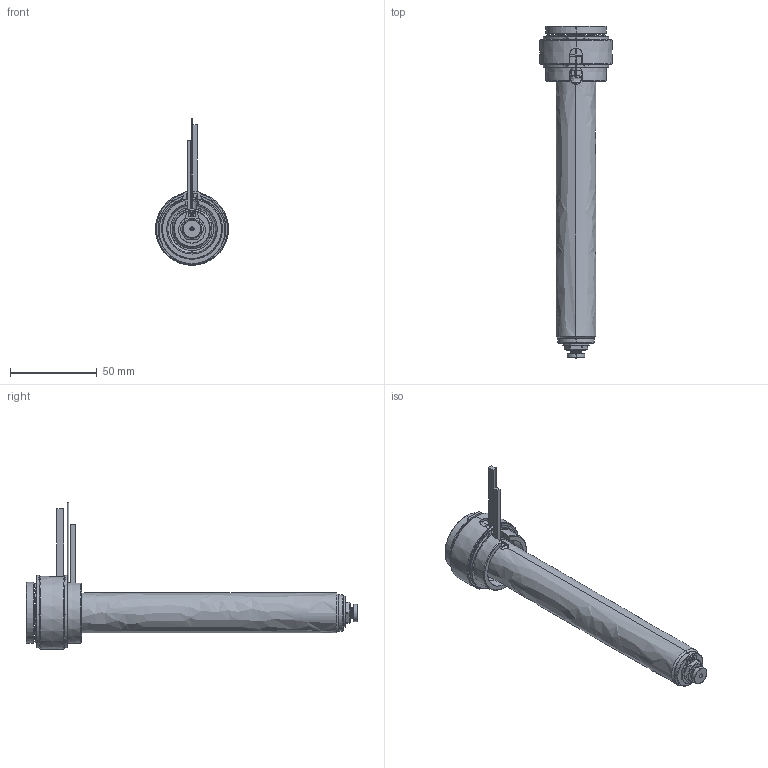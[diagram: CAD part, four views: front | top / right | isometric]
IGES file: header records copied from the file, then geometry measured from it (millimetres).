
Start section: SolidWorks IGES file using analytic representation for surfaces
Global section: file name: C:\Users\luca.EMPAD\Desktop\TEM\UGBE3504-S-A-5 [Ød-1.0 P-0 ØC-6.0].IGS; native system: SolidWorks 2012; preprocessor: SolidWorks 2012; author: luca; date: 120330.135458; units: millimetre
Bounding box: 42 x 191 x 84.4 mm (x, y, z)
Surface area: 35326.7 mm2 (no closed solid volume)
Topology: 0 solids, 0 shells, 188 faces, 3382 edges, 3382 vertices
Faces by surface type: revolution 120, bspline 68
